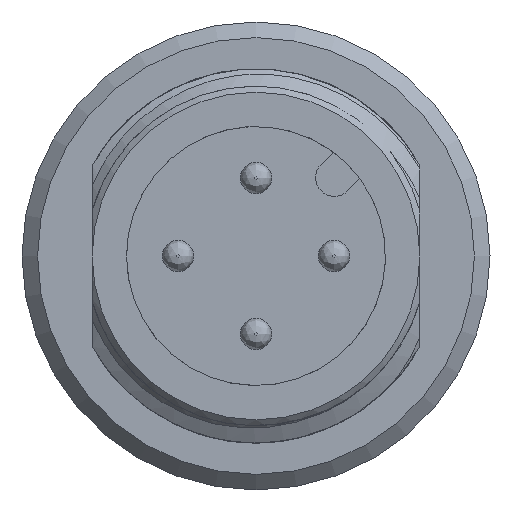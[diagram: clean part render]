
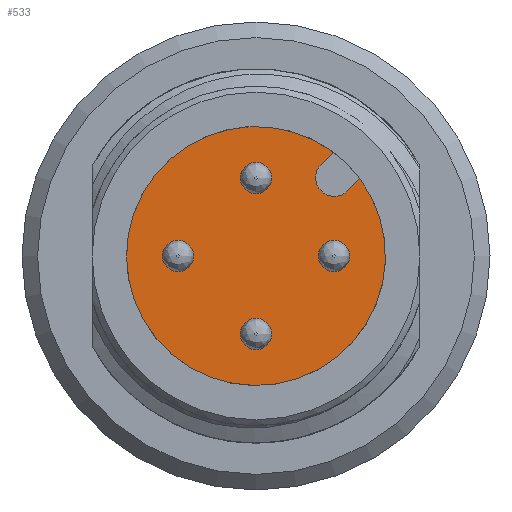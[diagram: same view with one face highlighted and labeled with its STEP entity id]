
A CAD part, left-side view. The second image highlights one B-rep face of the part: STEP entity #533.
In plain terms, the highlighted planar face has unit normal (-1, 0, 0).
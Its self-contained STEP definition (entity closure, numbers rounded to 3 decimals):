
#165=FACE_BOUND('',#942,.T.);
#166=FACE_BOUND('',#943,.T.);
#167=FACE_BOUND('',#944,.T.);
#168=FACE_BOUND('',#945,.T.);
#169=FACE_BOUND('',#946,.T.);
#325=CIRCLE('',#3150,0.5);
#328=CIRCLE('',#3155,0.5);
#331=CIRCLE('',#3160,0.5);
#334=CIRCLE('',#3165,0.5);
#336=CIRCLE('',#3171,0.6);
#338=CIRCLE('',#3175,4.15);
#439=PLANE('',#3176);
#533=ADVANCED_FACE('',(#165,#166,#167,#168,#169),#439,.T.);
#942=EDGE_LOOP('',(#1710,#1711,#1712,#1713));
#943=EDGE_LOOP('',(#1714));
#944=EDGE_LOOP('',(#1715));
#945=EDGE_LOOP('',(#1716));
#946=EDGE_LOOP('',(#1717));
#1228=LINE('',#5131,#1365);
#1232=LINE('',#5140,#1369);
#1365=VECTOR('',#3590,1.);
#1369=VECTOR('',#3596,1.);
#1710=ORIENTED_EDGE('',*,*,#2753,.T.);
#1711=ORIENTED_EDGE('',*,*,#2756,.T.);
#1712=ORIENTED_EDGE('',*,*,#2749,.T.);
#1713=ORIENTED_EDGE('',*,*,#2758,.T.);
#1714=ORIENTED_EDGE('',*,*,#2746,.T.);
#1715=ORIENTED_EDGE('',*,*,#2743,.T.);
#1716=ORIENTED_EDGE('',*,*,#2737,.T.);
#1717=ORIENTED_EDGE('',*,*,#2740,.T.);
#2409=VERTEX_POINT('',#5015);
#2412=VERTEX_POINT('',#5051);
#2415=VERTEX_POINT('',#5087);
#2418=VERTEX_POINT('',#5123);
#2421=VERTEX_POINT('',#5130);
#2422=VERTEX_POINT('',#5132);
#2425=VERTEX_POINT('',#5139);
#2426=VERTEX_POINT('',#5141);
#2737=EDGE_CURVE('',#2409,#2409,#325,.T.);
#2740=EDGE_CURVE('',#2412,#2412,#328,.T.);
#2743=EDGE_CURVE('',#2415,#2415,#331,.T.);
#2746=EDGE_CURVE('',#2418,#2418,#334,.T.);
#2749=EDGE_CURVE('',#2422,#2421,#1228,.T.);
#2753=EDGE_CURVE('',#2426,#2425,#1232,.T.);
#2756=EDGE_CURVE('',#2425,#2422,#336,.T.);
#2758=EDGE_CURVE('',#2421,#2426,#338,.T.);
#3150=AXIS2_PLACEMENT_3D('',#5014,#3552,#3553);
#3155=AXIS2_PLACEMENT_3D('',#5050,#3562,#3563);
#3160=AXIS2_PLACEMENT_3D('',#5086,#3572,#3573);
#3165=AXIS2_PLACEMENT_3D('',#5122,#3582,#3583);
#3171=AXIS2_PLACEMENT_3D('',#5145,#3602,#3603);
#3175=AXIS2_PLACEMENT_3D('',#5149,#3610,#3611);
#3176=AXIS2_PLACEMENT_3D('',#5150,#3612,#3613);
#3552=DIRECTION('',(1.,0.,0.));
#3553=DIRECTION('',(0.,1.,0.));
#3562=DIRECTION('',(1.,0.,0.));
#3563=DIRECTION('',(0.,1.,0.));
#3572=DIRECTION('',(1.,0.,0.));
#3573=DIRECTION('',(0.,1.,0.));
#3582=DIRECTION('',(1.,0.,0.));
#3583=DIRECTION('',(0.,1.,0.));
#3590=DIRECTION('',(0.,-0.707,0.707));
#3596=DIRECTION('',(0.,0.707,-0.707));
#3602=DIRECTION('',(1.,0.,0.));
#3603=DIRECTION('',(0.,0.707,0.707));
#3610=DIRECTION('',(-1.,0.,0.));
#3611=DIRECTION('',(0.,1.,0.));
#3612=DIRECTION('',(-1.,0.,0.));
#3613=DIRECTION('',(0.,0.,1.));
#5014=CARTESIAN_POINT('',(-31.8,-2.5,0.));
#5015=CARTESIAN_POINT('',(-31.8,-3.,0.));
#5050=CARTESIAN_POINT('',(-31.8,0.,-2.5));
#5051=CARTESIAN_POINT('',(-31.8,-0.5,-2.5));
#5086=CARTESIAN_POINT('',(-31.8,0.,2.5));
#5087=CARTESIAN_POINT('',(-31.8,-0.5,2.5));
#5122=CARTESIAN_POINT('',(-31.8,2.5,0.));
#5123=CARTESIAN_POINT('',(-31.8,2.,0.));
#5130=CARTESIAN_POINT('',(-31.8,-2.479,3.328));
#5131=CARTESIAN_POINT('',(-31.8,-2.086,2.934));
#5132=CARTESIAN_POINT('',(-31.8,-2.086,2.934));
#5139=CARTESIAN_POINT('',(-31.8,-2.934,2.086));
#5140=CARTESIAN_POINT('',(-31.8,-3.328,2.479));
#5141=CARTESIAN_POINT('',(-31.8,-3.328,2.479));
#5145=CARTESIAN_POINT('',(-31.8,-2.51,2.51));
#5149=CARTESIAN_POINT('',(-31.8,0.,0.));
#5150=CARTESIAN_POINT('',(-31.8,2.075,0.));
